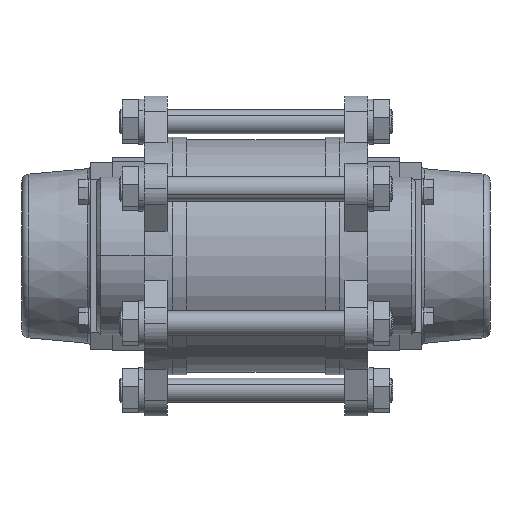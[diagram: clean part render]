
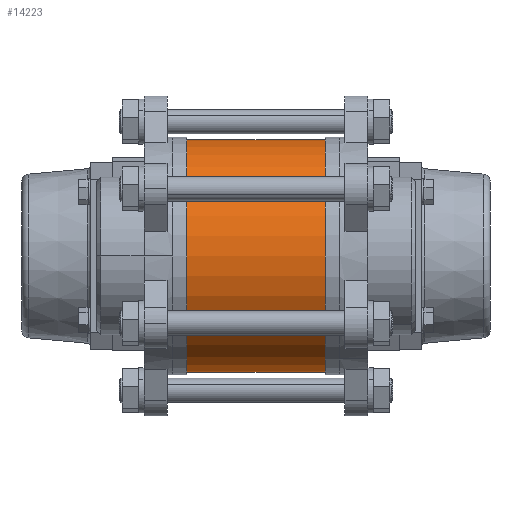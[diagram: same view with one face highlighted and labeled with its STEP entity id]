
A CAD part, front view. The second image highlights one B-rep face of the part: STEP entity #14223.
In plain terms, the highlighted cylindrical face has radius 68 mm (diameter 136 mm), a partial arc.
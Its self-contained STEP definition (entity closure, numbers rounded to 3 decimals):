
#434 = AXIS2_PLACEMENT_3D ( 'NONE', #953, #954, #955 ) ;
#436 = CIRCLE ( 'NONE', #434, 68. ) ;
#953 = CARTESIAN_POINT ( 'NONE',  ( -40.5, 0., 0. ) ) ;
#954 = DIRECTION ( 'NONE',  ( 1., 0., 0. ) ) ;
#955 = DIRECTION ( 'NONE',  ( 0., 0., 1. ) ) ;
#2109 = CARTESIAN_POINT ( 'NONE',  ( -40.5, 0., -68. ) ) ;
#2112 = LINE ( 'NONE', #2109, #13373 ) ;
#2117 = DIRECTION ( 'NONE',  ( 1., 0., 0. ) ) ;
#2293 = LINE ( 'NONE', #2294, #13319 ) ;
#2294 = CARTESIAN_POINT ( 'NONE',  ( -40.5, 0., 68. ) ) ;
#2295 = DIRECTION ( 'NONE',  ( 1., 0., 0. ) ) ;
#2742 = AXIS2_PLACEMENT_3D ( 'NONE', #11136, #11138, #11144 ) ;
#3052 = VERTEX_POINT ( 'NONE', #8519 ) ;
#4733 = VERTEX_POINT ( 'NONE', #12199 ) ;
#4764 = VERTEX_POINT ( 'NONE', #12230 ) ;
#4769 = VERTEX_POINT ( 'NONE', #12235 ) ;
#6145 = ORIENTED_EDGE ( 'NONE', *, *, #6980, .F. ) ;
#6146 = ORIENTED_EDGE ( 'NONE', *, *, #13827, .T. ) ;
#6147 = ORIENTED_EDGE ( 'NONE', *, *, #6942, .T. ) ;
#6148 = ORIENTED_EDGE ( 'NONE', *, *, #16122, .F. ) ;
#6942 = EDGE_CURVE ( 'NONE', #3052, #4769, #2112, .T. ) ;
#6980 = EDGE_CURVE ( 'NONE', #4733, #4764, #2293, .T. ) ;
#7251 = CARTESIAN_POINT ( 'NONE',  ( 40.5, 0., 0. ) ) ;
#7252 = DIRECTION ( 'NONE',  ( 1., 0., 0. ) ) ;
#7253 = DIRECTION ( 'NONE',  ( 0., 0., -1. ) ) ;
#7616 = AXIS2_PLACEMENT_3D ( 'NONE', #7251, #7252, #7253 ) ;
#7618 = CIRCLE ( 'NONE', #7616, 68. ) ;
#8519 = CARTESIAN_POINT ( 'NONE',  ( -40.5, 0., -68. ) ) ;
#11136 = CARTESIAN_POINT ( 'NONE',  ( -40.5, 0., 0. ) ) ;
#11138 = DIRECTION ( 'NONE',  ( 1., 0., 0. ) ) ;
#11141 = CYLINDRICAL_SURFACE ( 'NONE', #2742, 68. ) ;
#11142 = FACE_OUTER_BOUND ( 'NONE', #12966, .T. ) ;
#11144 = DIRECTION ( 'NONE',  ( 0., 0., -1. ) ) ;
#12199 = CARTESIAN_POINT ( 'NONE',  ( -40.5, 0., 68. ) ) ;
#12230 = CARTESIAN_POINT ( 'NONE',  ( 40.5, 0., 68. ) ) ;
#12235 = CARTESIAN_POINT ( 'NONE',  ( 40.5, 0., -68. ) ) ;
#12966 = EDGE_LOOP ( 'NONE', ( #6145, #6146, #6147, #6148 ) ) ;
#13319 = VECTOR ( 'NONE', #2295, 1000. ) ;
#13373 = VECTOR ( 'NONE', #2117, 1000. ) ;
#13827 = EDGE_CURVE ( 'NONE', #4733, #3052, #436, .T. ) ;
#14223 = ADVANCED_FACE ( 'NONE', ( #11142 ), #11141, .T. ) ;
#16122 = EDGE_CURVE ( 'NONE', #4764, #4769, #7618, .T. ) ;
